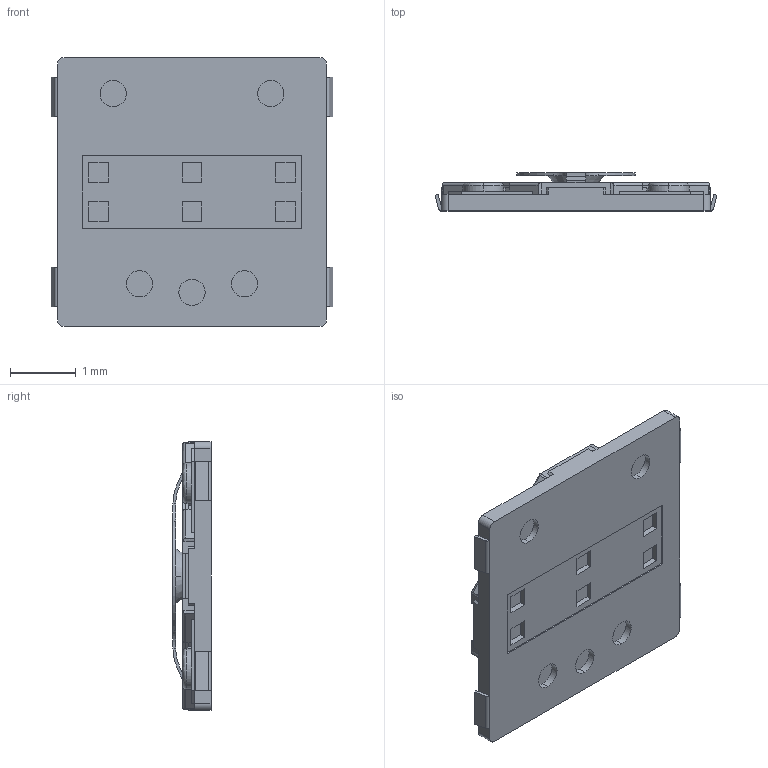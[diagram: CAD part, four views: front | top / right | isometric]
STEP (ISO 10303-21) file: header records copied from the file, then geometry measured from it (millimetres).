
FILE_DESCRIPTION (( 'STEP AP203' ), '1' );
FILE_NAME ('EVQP6LB55.STEP', '2009-01-13T07:13:14', ( ' ' ), ( ' ' ), 'SwSTEP 2.0', 'SolidWorks 2008', '' );
FILE_SCHEMA (( 'CONFIG_CONTROL_DESIGN' ));
Length unit declared in the file: millimetre
Products named in the file (1): EVQP6LB55
Bounding box: 4.3 x 0.58 x 4.1 mm (x, y, z)
Volume: 6.4 mm3; surface area: 50.2 mm2
Topology: 1 solids, 1 shells, 292 faces, 810 edges, 532 vertices
Faces by surface type: plane 194, cylinder 74, bspline 20, cone 4
Entity records: 9687 total; most frequent: CARTESIAN_POINT 2147, ORIENTED_EDGE 1620, DIRECTION 1480, EDGE_CURVE 810, LINE 582, VECTOR 582, VERTEX_POINT 532, AXIS2_PLACEMENT_3D 449
